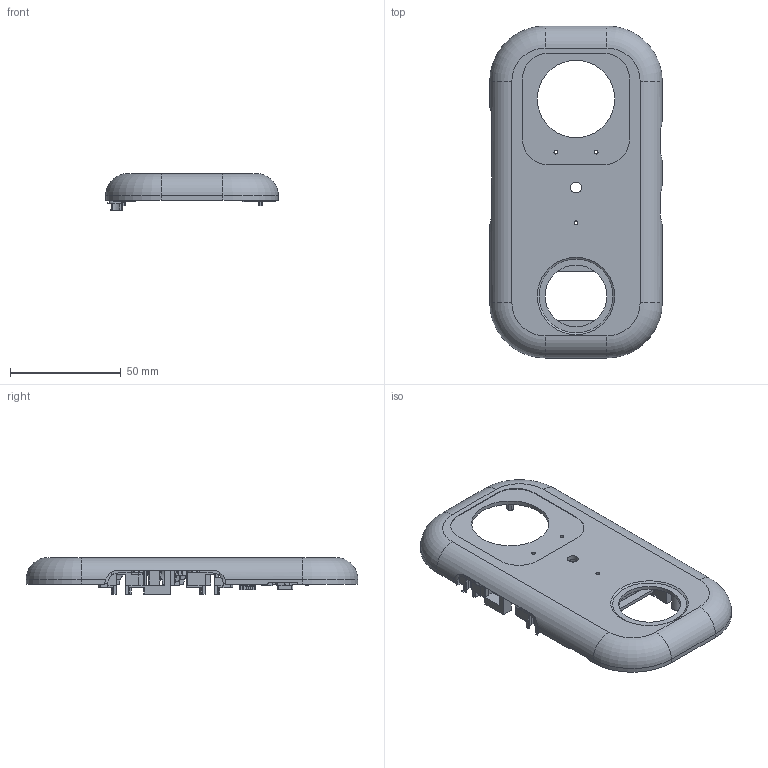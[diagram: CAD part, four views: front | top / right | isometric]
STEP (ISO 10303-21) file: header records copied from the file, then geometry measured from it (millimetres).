
FILE_DESCRIPTION(('Open CASCADE Model'),'2;1');
FILE_NAME('Open CASCADE Shape Model','2026-09-15T15:09:40',('Author'),( 'Open CASCADE'),'Open CASCADE STEP processor 7.7','Open CASCADE 7.7' ,'Unknown');
FILE_SCHEMA(('AUTOMOTIVE_DESIGN { 1 0 10303 214 1 1 1 1 }'));
Length unit declared in the file: millimetre
Products named in the file (1): Open CASCADE STEP translator 7.7 1
Bounding box: 78 x 150 x 16.6 mm (x, y, z)
Volume: 34111.2 mm3; surface area: 34798.5 mm2
Topology: 1 solids, 1 shells, 1294 faces, 3657 edges, 2409 vertices
Faces by surface type: plane 812, cylinder 371, bspline 54, torus 46, cone 11
Full cylindrical faces by diameter (mm): 1.7 x13, 1.8 x5, 1.85 x1, 2.1 x4, 3 x3, 4.2 x2, 4.9 x1, 5.7 x1, 6 x1, 27.9 x1, 35 x1
Entity records: 119966 total; most frequent: CARTESIAN_POINT 51210, DIRECTION 11610, ORIENTED_EDGE 7314, PCURVE 7314, DEFINITIONAL_REPRESENTATION 7314, LINE 6791, VECTOR 6791, EDGE_CURVE 3657
